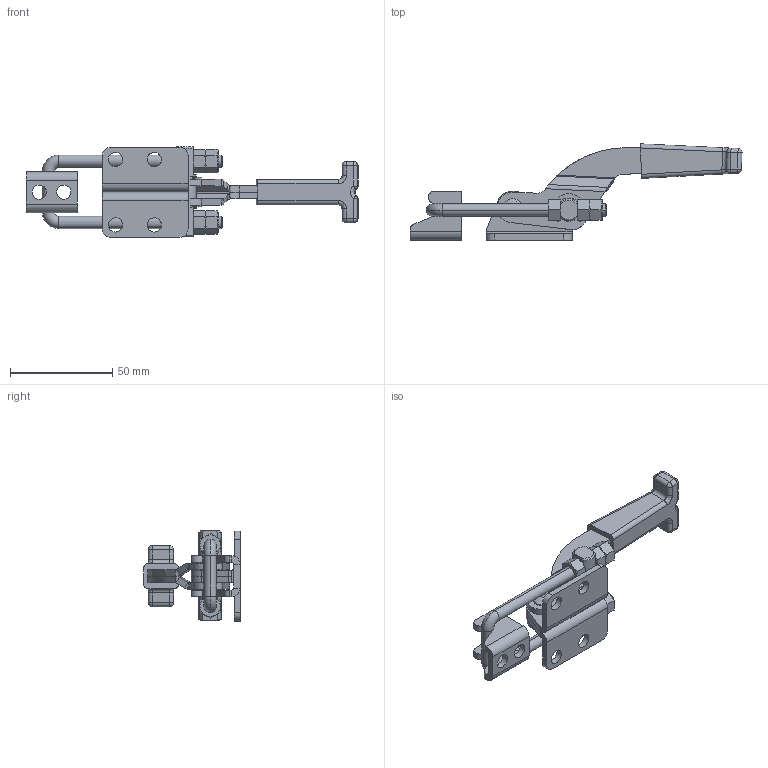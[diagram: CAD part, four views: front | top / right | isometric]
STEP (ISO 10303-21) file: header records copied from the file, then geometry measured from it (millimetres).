
FILE_DESCRIPTION(('CATIA V5 STEP Exchange'),'2;1');
FILE_NAME('\\kjf-102\KJF_TC\Toggle_Clamp\LATCH TYPE\KJF-032-41F\KJF-032-41FB_A.stp','2025-02-19T00:37:46+00:00',('none'),('none'),'CATIA Version 5 Release 19 SP 9 (IN-10)','CATIA V5 STEP AP214','none');
FILE_SCHEMA(('AUTOMOTIVE_DESIGN { 1 0 10303 214 1 1 1 1 }'));
Length unit declared in the file: millimetre
Products named in the file (13): KJF-032-41FB_-; KJF-032-41F_A_BASE-LH; KJF-032-41F_A_BASE-RH; KJF-032-41F_-_U-BOLT; KJF-032-41F_-_LATCH; KJF-032-41F_-_GUIDE-PIN; KJF-032-41F_-_RIVET; KJF-032-41FS_-_BUSH; KJF-032-41FB_-_HANDLE-LH; KJF-032-41FB_-_HANDLE-RH; KJF-032-41FB_-_HAND-GRIP; SNAP-RING E-8 ; NUT M6
Assembly tree (18 placements, depth 2):
  KJF-032-41FB_-
    KJF-032-41F_A_BASE-LH
    KJF-032-41F_A_BASE-RH
    KJF-032-41F_-_U-BOLT
    KJF-032-41F_-_LATCH
    KJF-032-41F_-_GUIDE-PIN
    KJF-032-41F_-_RIVET
    KJF-032-41FS_-_BUSH
    KJF-032-41FB_-_HANDLE-LH
    KJF-032-41FB_-_HANDLE-RH
    KJF-032-41FB_-_HAND-GRIP
    SNAP-RING E-8   x2
    NUT M6  x6
Bounding box: 162.53 x 47.13 x 44.2 mm (x, y, z)
Volume: 44675.7 mm3; surface area: 31674.8 mm2
Topology: 18 solids, 18 shells, 792 faces, 1946 edges, 1180 vertices
Faces by surface type: plane 443, cylinder 259, cone 50, sphere 14, bspline 13, torus 9, extrusion 4
Entity records: 19473 total; most frequent: CARTESIAN_POINT 4763, ORIENTED_EDGE 3380, DIRECTION 2212, EDGE_CURVE 1690, VERTEX_POINT 1020, AXIS2_PLACEMENT_3D 958, VECTOR 851, LINE 847
